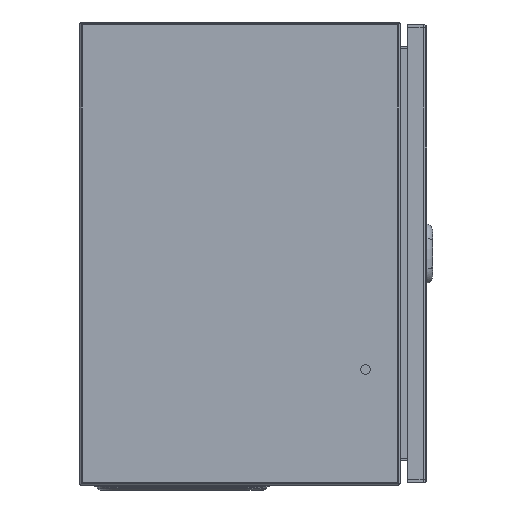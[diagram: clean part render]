
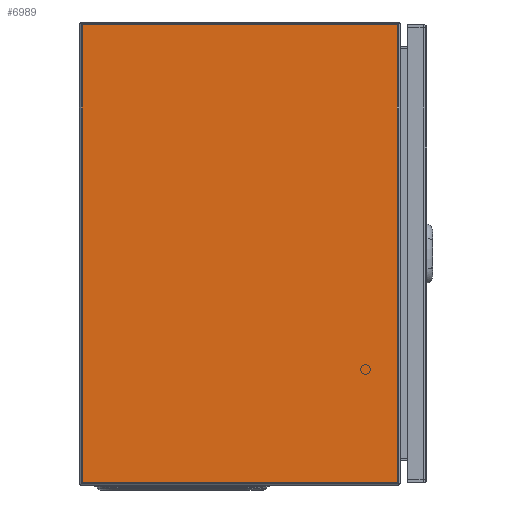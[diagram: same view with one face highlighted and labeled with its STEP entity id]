
A CAD part, left-side view. The second image highlights one B-rep face of the part: STEP entity #6989.
In plain terms, the highlighted planar face has unit normal (-1, 0, 0).
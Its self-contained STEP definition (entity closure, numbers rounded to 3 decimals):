
#447=LINE('',#11141,#863);
#448=LINE('',#11144,#864);
#449=LINE('',#11146,#865);
#450=LINE('',#11148,#866);
#863=VECTOR('',#8724,1000.);
#864=VECTOR('',#8725,1000.);
#865=VECTOR('',#8726,1000.);
#866=VECTOR('',#8727,1000.);
#1365=ORIENTED_EDGE('',*,*,#3198,.T.);
#1366=ORIENTED_EDGE('',*,*,#3199,.F.);
#1367=ORIENTED_EDGE('',*,*,#3200,.F.);
#1368=ORIENTED_EDGE('',*,*,#3201,.T.);
#3198=EDGE_CURVE('',#4107,#4108,#447,.T.);
#3199=EDGE_CURVE('',#4109,#4108,#448,.T.);
#3200=EDGE_CURVE('',#4110,#4109,#449,.T.);
#3201=EDGE_CURVE('',#4110,#4107,#450,.T.);
#4107=VERTEX_POINT('',#11142);
#4108=VERTEX_POINT('',#11143);
#4109=VERTEX_POINT('',#11145);
#4110=VERTEX_POINT('',#11147);
#5195=EDGE_LOOP('',(#1365,#1366,#1367,#1368));
#6025=FACE_BOUND('',#5195,.T.);
#6805=PLANE('',#7574);
#6989=ADVANCED_FACE('',(#6025),#6805,.T.);
#7574=AXIS2_PLACEMENT_3D('',#11140,#8722,#8723);
#8722=DIRECTION('',(-1.,0.,0.));
#8723=DIRECTION('',(0.,0.,1.));
#8724=DIRECTION('',(0.,0.,-1.));
#8725=DIRECTION('',(0.,1.,0.));
#8726=DIRECTION('',(0.,0.,-1.));
#8727=DIRECTION('',(0.,1.,0.));
#11140=CARTESIAN_POINT('',(-300.,-277.,2.5));
#11141=CARTESIAN_POINT('',(-300.,-2.5,400.));
#11142=CARTESIAN_POINT('',(-300.,-2.5,397.5));
#11143=CARTESIAN_POINT('',(-300.,-2.5,2.5));
#11144=CARTESIAN_POINT('',(-300.,-277.,2.5));
#11145=CARTESIAN_POINT('',(-300.,-274.5,2.5));
#11146=CARTESIAN_POINT('',(-300.,-274.5,400.));
#11147=CARTESIAN_POINT('',(-300.,-274.5,397.5));
#11148=CARTESIAN_POINT('',(-300.,-277.,397.5));
